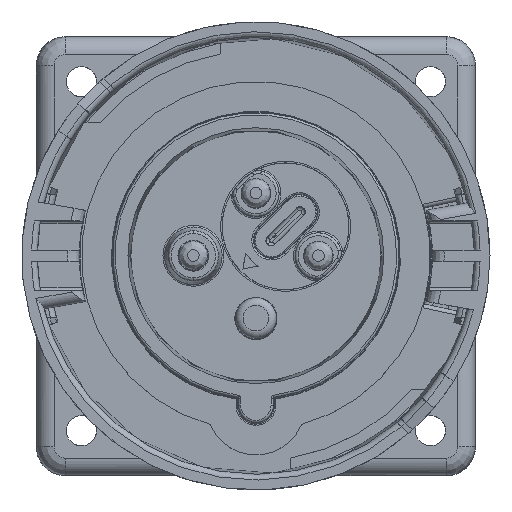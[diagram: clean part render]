
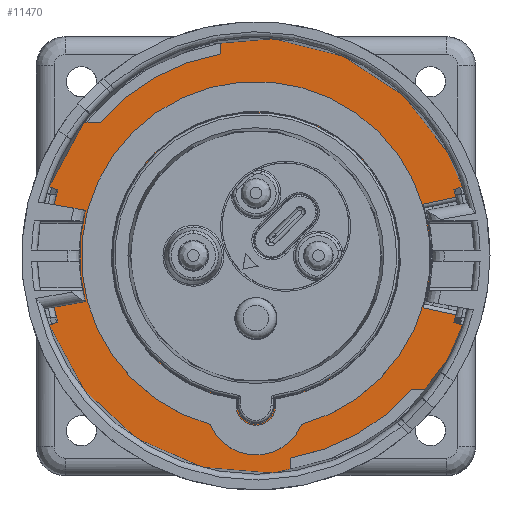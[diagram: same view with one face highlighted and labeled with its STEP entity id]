
A CAD part, top view. The second image highlights one B-rep face of the part: STEP entity #11470.
In plain terms, the highlighted planar face has unit normal (0, 0, 1).
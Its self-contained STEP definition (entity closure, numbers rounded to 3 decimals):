
#1997=FACE_BOUND('',#19713,.T.);
#1998=FACE_BOUND('',#19714,.T.);
#8321=PLANE('',#66921);
#11470=ADVANCED_FACE('',(#1997,#1998),#8321,.F.);
#19713=EDGE_LOOP('',(#37280,#37281,#37282,#37283,#37284,#37285,#37286,#37287,
#37288,#37289,#37290,#37291));
#19714=EDGE_LOOP('',(#37292,#37293,#37294,#37295));
#22024=CIRCLE('',#66907,35.25);
#22026=CIRCLE('',#66910,35.25);
#22028=CIRCLE('',#66914,30.1);
#22029=CIRCLE('',#66916,37.75);
#22030=CIRCLE('',#66917,37.75);
#22031=CIRCLE('',#66918,37.75);
#22032=CIRCLE('',#66919,3.2);
#22033=CIRCLE('',#66920,24.75);
#37280=ORIENTED_EDGE('',*,*,#54355,.T.);
#37281=ORIENTED_EDGE('',*,*,#54356,.T.);
#37282=ORIENTED_EDGE('',*,*,#54357,.T.);
#37283=ORIENTED_EDGE('',*,*,#54353,.F.);
#37284=ORIENTED_EDGE('',*,*,#54348,.T.);
#37285=ORIENTED_EDGE('',*,*,#54358,.T.);
#37286=ORIENTED_EDGE('',*,*,#54359,.T.);
#37287=ORIENTED_EDGE('',*,*,#54341,.T.);
#37288=ORIENTED_EDGE('',*,*,#54360,.T.);
#37289=ORIENTED_EDGE('',*,*,#54361,.T.);
#37290=ORIENTED_EDGE('',*,*,#54362,.T.);
#37291=ORIENTED_EDGE('',*,*,#54345,.T.);
#37292=ORIENTED_EDGE('',*,*,#54363,.F.);
#37293=ORIENTED_EDGE('',*,*,#54364,.F.);
#37294=ORIENTED_EDGE('',*,*,#54365,.F.);
#37295=ORIENTED_EDGE('',*,*,#54366,.F.);
#45799=VERTEX_POINT('',#156554);
#45802=VERTEX_POINT('',#156559);
#45803=VERTEX_POINT('',#156563);
#45806=VERTEX_POINT('',#156568);
#45809=VERTEX_POINT('',#156590);
#45810=VERTEX_POINT('',#156592);
#45814=VERTEX_POINT('',#156617);
#45815=VERTEX_POINT('',#156636);
#45816=VERTEX_POINT('',#156638);
#45817=VERTEX_POINT('',#156641);
#45818=VERTEX_POINT('',#156644);
#45819=VERTEX_POINT('',#156646);
#45820=VERTEX_POINT('',#156649);
#45821=VERTEX_POINT('',#156650);
#45822=VERTEX_POINT('',#156652);
#45823=VERTEX_POINT('',#156654);
#54341=EDGE_CURVE('',#45799,#45802,#22024,.T.);
#54345=EDGE_CURVE('',#45803,#45806,#22026,.T.);
#54348=EDGE_CURVE('',#45810,#45809,#58795,.T.);
#54353=EDGE_CURVE('',#45810,#45814,#22028,.T.);
#54355=EDGE_CURVE('',#45806,#45815,#58798,.T.);
#54356=EDGE_CURVE('',#45815,#45816,#22029,.T.);
#54357=EDGE_CURVE('',#45816,#45814,#58799,.T.);
#54358=EDGE_CURVE('',#45809,#45817,#22030,.T.);
#54359=EDGE_CURVE('',#45817,#45799,#58800,.T.);
#54360=EDGE_CURVE('',#45802,#45818,#58801,.T.);
#54361=EDGE_CURVE('',#45818,#45819,#22031,.T.);
#54362=EDGE_CURVE('',#45819,#45803,#58802,.T.);
#54363=EDGE_CURVE('',#45820,#45821,#22032,.T.);
#54364=EDGE_CURVE('',#45822,#45820,#58803,.T.);
#54365=EDGE_CURVE('',#45823,#45822,#22033,.T.);
#54366=EDGE_CURVE('',#45821,#45823,#58804,.T.);
#58795=LINE('',#156591,#62364);
#58798=LINE('',#156635,#62367);
#58799=LINE('',#156639,#62368);
#58800=LINE('',#156642,#62369);
#58801=LINE('',#156643,#62370);
#58802=LINE('',#156647,#62371);
#58803=LINE('',#156651,#62372);
#58804=LINE('',#156655,#62373);
#62364=VECTOR('',#78916,1.);
#62367=VECTOR('',#78927,1.);
#62368=VECTOR('',#78930,1.);
#62369=VECTOR('',#78933,1.);
#62370=VECTOR('',#78934,1.);
#62371=VECTOR('',#78937,1.);
#62372=VECTOR('',#78940,1.);
#62373=VECTOR('',#78943,1.);
#66907=AXIS2_PLACEMENT_3D('',#156560,#78903,#78904);
#66910=AXIS2_PLACEMENT_3D('',#156569,#78911,#78912);
#66914=AXIS2_PLACEMENT_3D('',#156616,#78923,#78924);
#66916=AXIS2_PLACEMENT_3D('',#156637,#78928,#78929);
#66917=AXIS2_PLACEMENT_3D('',#156640,#78931,#78932);
#66918=AXIS2_PLACEMENT_3D('',#156645,#78935,#78936);
#66919=AXIS2_PLACEMENT_3D('',#156648,#78938,#78939);
#66920=AXIS2_PLACEMENT_3D('',#156653,#78941,#78942);
#66921=AXIS2_PLACEMENT_3D('',#156656,#78944,#78945);
#78903=DIRECTION('',(0.,0.,1.));
#78904=DIRECTION('',(0.,-1.,0.));
#78911=DIRECTION('',(0.,0.,1.));
#78912=DIRECTION('',(0.,-1.,0.));
#78916=DIRECTION('',(0.978,0.208,0.));
#78923=DIRECTION('',(0.,0.,-1.));
#78924=DIRECTION('',(0.,-1.,0.));
#78927=DIRECTION('',(1.,0.,0.));
#78928=DIRECTION('',(0.,0.,1.));
#78929=DIRECTION('',(-1.,0.,0.));
#78930=DIRECTION('',(-0.978,0.208,0.));
#78931=DIRECTION('',(0.,0.,1.));
#78932=DIRECTION('',(-1.,0.,0.));
#78933=DIRECTION('',(0.,-1.,0.));
#78934=DIRECTION('',(-1.,0.,0.));
#78935=DIRECTION('',(0.,0.,1.));
#78936=DIRECTION('',(-0.793,0.609,0.));
#78937=DIRECTION('',(0.,1.,0.));
#78938=DIRECTION('',(0.,0.,1.));
#78939=DIRECTION('',(0.,-1.,0.));
#78940=DIRECTION('',(0.,-1.,0.));
#78941=DIRECTION('',(0.,0.,1.));
#78942=DIRECTION('',(0.,-1.,0.));
#78943=DIRECTION('',(0.,1.,0.));
#78944=DIRECTION('',(0.,0.,-1.));
#78945=DIRECTION('',(0.,1.,0.));
#156554=CARTESIAN_POINT('',(-6.,34.736,-36.5));
#156559=CARTESIAN_POINT('',(-26.713,23.,-36.5));
#156560=CARTESIAN_POINT('',(0.,0.,-36.5));
#156563=CARTESIAN_POINT('',(6.,-34.736,-36.5));
#156568=CARTESIAN_POINT('',(26.713,-23.,-36.5));
#156569=CARTESIAN_POINT('',(0.,0.,-36.5));
#156590=CARTESIAN_POINT('',(36.255,10.519,-36.5));
#156591=CARTESIAN_POINT('',(28.747,8.923,-36.5));
#156592=CARTESIAN_POINT('',(28.747,8.923,-36.5));
#156616=CARTESIAN_POINT('',(0.,0.,-36.5));
#156617=CARTESIAN_POINT('',(28.747,-8.923,-36.5));
#156635=CARTESIAN_POINT('',(26.713,-23.,-36.5));
#156636=CARTESIAN_POINT('',(29.934,-23.,-36.5));
#156637=CARTESIAN_POINT('',(0.,0.,-36.5));
#156638=CARTESIAN_POINT('',(36.255,-10.519,-36.5));
#156639=CARTESIAN_POINT('',(36.255,-10.519,-36.5));
#156640=CARTESIAN_POINT('',(0.,0.,-36.5));
#156641=CARTESIAN_POINT('',(-6.,37.27,-36.5));
#156642=CARTESIAN_POINT('',(-6.,37.27,-36.5));
#156643=CARTESIAN_POINT('',(-26.713,23.,-36.5));
#156644=CARTESIAN_POINT('',(-29.934,23.,-36.5));
#156645=CARTESIAN_POINT('',(0.,0.,-36.5));
#156646=CARTESIAN_POINT('',(6.,-37.27,-36.5));
#156647=CARTESIAN_POINT('',(6.,-37.27,-36.5));
#156648=CARTESIAN_POINT('',(0.,-25.7,-36.5));
#156649=CARTESIAN_POINT('',(-3.2,-25.7,-36.5));
#156650=CARTESIAN_POINT('',(3.2,-25.7,-36.5));
#156651=CARTESIAN_POINT('',(-3.2,-24.542,-36.5));
#156652=CARTESIAN_POINT('',(-3.2,-24.542,-36.5));
#156653=CARTESIAN_POINT('',(0.,0.,-36.5));
#156654=CARTESIAN_POINT('',(3.2,-24.542,-36.5));
#156655=CARTESIAN_POINT('',(3.2,-25.7,-36.5));
#156656=CARTESIAN_POINT('',(36.444,37.75,-36.5));
